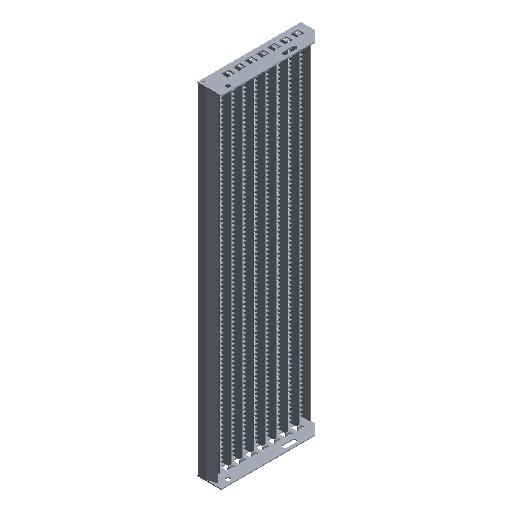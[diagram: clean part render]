
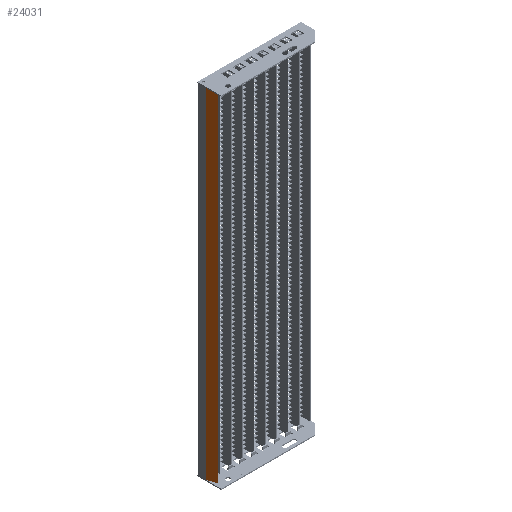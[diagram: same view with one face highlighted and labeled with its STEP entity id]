
A CAD part, isometric view. The second image highlights one B-rep face of the part: STEP entity #24031.
In plain terms, the highlighted planar face has unit normal (-0.94, -0.342, 0).
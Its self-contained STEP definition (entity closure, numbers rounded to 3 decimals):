
#2502=FACE_OUTER_BOUND('',#4134,.T.);
#4134=EDGE_LOOP('',(#18923,#18924,#18925,#18926));
#5698=LINE('',#41616,#8393);
#5717=LINE('',#41663,#8412);
#5719=LINE('',#41669,#8414);
#5723=LINE('',#41676,#8418);
#8393=VECTOR('',#30146,10.);
#8412=VECTOR('',#30189,10.);
#8414=VECTOR('',#30195,10.);
#8418=VECTOR('',#30203,10.);
#11222=VERTEX_POINT('',#41613);
#11223=VERTEX_POINT('',#41615);
#11239=VERTEX_POINT('',#41662);
#11241=VERTEX_POINT('',#41668);
#13965=EDGE_CURVE('',#11223,#11222,#5698,.T.);
#13989=EDGE_CURVE('',#11222,#11239,#5717,.T.);
#13992=EDGE_CURVE('',#11241,#11223,#5719,.T.);
#13996=EDGE_CURVE('',#11239,#11241,#5723,.T.);
#18923=ORIENTED_EDGE('',*,*,#13989,.T.);
#18924=ORIENTED_EDGE('',*,*,#13996,.T.);
#18925=ORIENTED_EDGE('',*,*,#13992,.T.);
#18926=ORIENTED_EDGE('',*,*,#13965,.T.);
#22625=PLANE('',#26025);
#24031=ADVANCED_FACE('',(#2502),#22625,.T.);
#26025=AXIS2_PLACEMENT_3D('',#41675,#30201,#30202);
#30146=DIRECTION('',(-0.342,0.94,0.));
#30189=DIRECTION('',(0.,0.,-1.));
#30195=DIRECTION('',(0.,0.,1.));
#30201=DIRECTION('center_axis',(-0.94,-0.342,0.));
#30202=DIRECTION('ref_axis',(0.,0.,1.));
#30203=DIRECTION('',(0.342,-0.94,0.));
#41613=CARTESIAN_POINT('',(0.196,-25.539,994.));
#41615=CARTESIAN_POINT('',(9.099,-50.,994.));
#41616=CARTESIAN_POINT('',(0.,-25.,994.));
#41662=CARTESIAN_POINT('',(0.196,-25.539,0.));
#41663=CARTESIAN_POINT('',(0.196,-25.539,0.));
#41668=CARTESIAN_POINT('',(9.099,-50.,0.));
#41669=CARTESIAN_POINT('',(9.099,-50.,0.));
#41675=CARTESIAN_POINT('Origin',(9.099,-50.,0.));
#41676=CARTESIAN_POINT('',(0.,-25.,0.));
